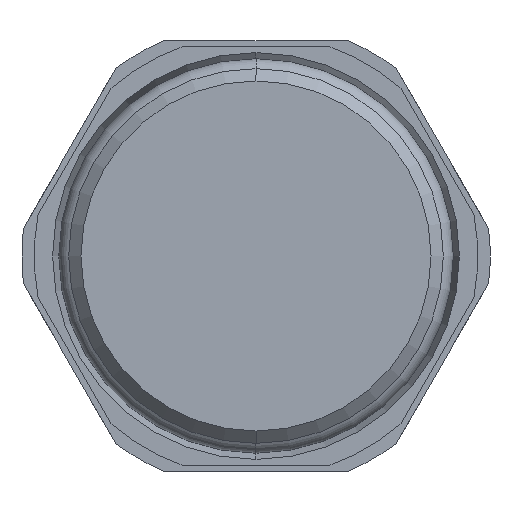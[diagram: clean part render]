
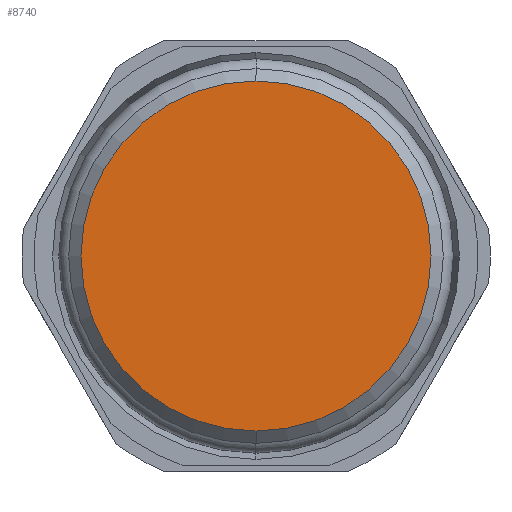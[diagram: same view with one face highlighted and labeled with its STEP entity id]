
A CAD part, front view. The second image highlights one B-rep face of the part: STEP entity #8740.
In plain terms, the highlighted planar face has unit normal (0, -1, 0).
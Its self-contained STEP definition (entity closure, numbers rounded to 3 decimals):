
#1825 = CARTESIAN_POINT ( 'NONE',  ( 4.715, -8.844, -0.157 ) ) ;
#1827 = FACE_OUTER_BOUND ( 'NONE', #7561, .T. ) ;
#1828 = PLANE ( 'NONE',  #11669 ) ;
#1831 = DIRECTION ( 'NONE',  ( 0., -1., 0. ) ) ;
#1832 = DIRECTION ( 'NONE',  ( 0., 0., -1. ) ) ;
#2161 = CARTESIAN_POINT ( 'NONE',  ( -1.835, -8.844, -0.157 ) ) ;
#2162 = DIRECTION ( 'NONE',  ( 0., -1., 0. ) ) ;
#2163 = DIRECTION ( 'NONE',  ( 0., 0., -1. ) ) ;
#7034 = CARTESIAN_POINT ( 'NONE',  ( -1.835, -8.844, 6.943 ) ) ;
#7076 = CARTESIAN_POINT ( 'NONE',  ( -1.835, -8.844, -7.257 ) ) ;
#7561 = EDGE_LOOP ( 'NONE', ( #8015, #8016 ) ) ;
#7762 = CARTESIAN_POINT ( 'NONE',  ( -1.835, -8.844, -0.157 ) ) ;
#7763 = DIRECTION ( 'NONE',  ( 0., -1., 0. ) ) ;
#7764 = DIRECTION ( 'NONE',  ( 0., 0., -1. ) ) ;
#8015 = ORIENTED_EDGE ( 'NONE', *, *, #8813, .T. ) ;
#8016 = ORIENTED_EDGE ( 'NONE', *, *, #8657, .T. ) ;
#8451 = VERTEX_POINT ( 'NONE', #7034 ) ;
#8472 = VERTEX_POINT ( 'NONE', #7076 ) ;
#8657 = EDGE_CURVE ( 'NONE', #8451, #8472, #11576, .T. ) ;
#8740 = ADVANCED_FACE ( 'NONE', ( #1827 ), #1828, .T. ) ;
#8813 = EDGE_CURVE ( 'NONE', #8472, #8451, #11774, .T. ) ;
#11576 = CIRCLE ( 'NONE', #11577, 7.1 ) ;
#11577 = AXIS2_PLACEMENT_3D ( 'NONE', #7762, #7763, #7764 ) ;
#11669 = AXIS2_PLACEMENT_3D ( 'NONE', #1825, #1831, #1832 ) ;
#11774 = CIRCLE ( 'NONE', #11776, 7.1 ) ;
#11776 = AXIS2_PLACEMENT_3D ( 'NONE', #2161, #2162, #2163 ) ;
